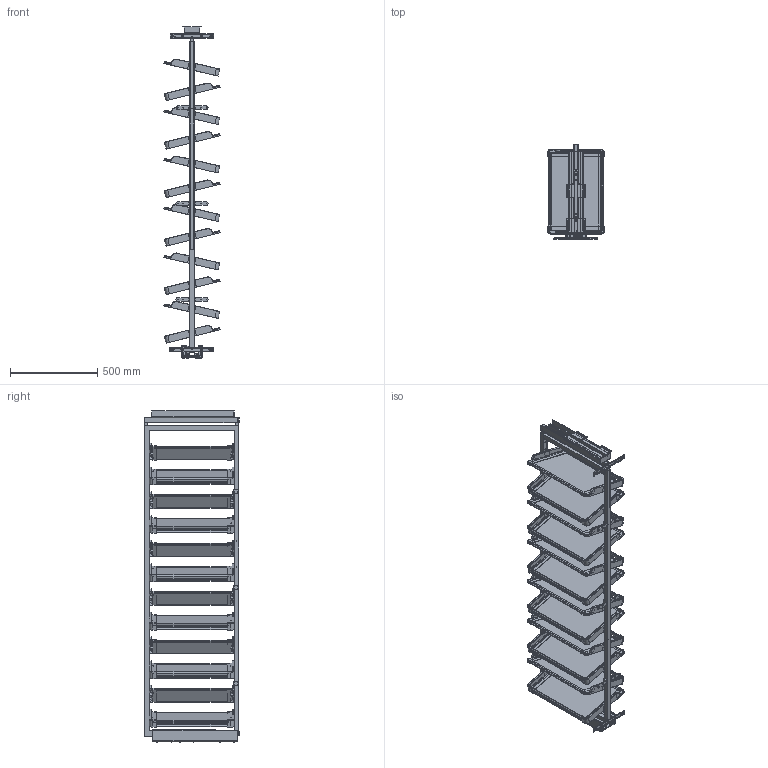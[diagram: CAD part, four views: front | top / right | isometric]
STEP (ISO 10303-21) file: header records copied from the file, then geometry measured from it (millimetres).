
FILE_DESCRIPTION(/* description */ ('STEP AP242 Edition 2','CAx-IF Rec.Pracs.---Representation and Presentation of Product Manufacturing Information (PMI)---4.0---2014-10-13','CAx-IF Rec.Pracs.---3D Tessellated Geometry---0.4---2014-09-14','2;1','CAx-IF Rec.Pracs.---User Defined Attributes---1.5---2016-08-15'),/* implementation_level */ '2;1');
FILE_NAME(/* name */ '6a0465d1cfd309d401985b8f',/* time_stamp */ '2026-05-13T11:51:47Z',/* author */ (''),/* organization */ (''),/* preprocessor_version */ 'ST-DEVELOPER v20',/* originating_system */ 'ONSHAPE BY PTC INC, 1.214',/* authorisation */ ' ');
FILE_SCHEMA (('AP242_MANAGED_MODEL_BASED_3D_ENGINEERING_MIM_LF { 1 0 10303 442 3 1 4 }'));
Length unit declared in the file: millimetre
Products named in the file (49): 500 assembly 12; kolko; Part 8; obudowa posrednia; Part 2; plastik; Part 1; obudowa wewnetrzna; plasticzek; Part 5; rama; Part 3; mechanizm wewnetrzny; Part 4; obudowa dolna; gorna rama; mechanizm; PZ Raised countersunk head screw M2x0.40 x 4; polka 500 assembly <10>; polka 500 assembly <3>; Part 7; polka 500 assembly <8>; polka 500 assembly <1>; kolko1; Part 9; polka 500 assembly <2>; polka 500 assembly <12>; polka 500 assembly <7>; polka 500 assembly <4>; PH Countersunk flat head screw M4x0.7 x 6; polka 500 assembly <5>; polka 500 assembly <9>; polka 500 assembly <11>; Part 6; polka 500 assembly <6>
Assembly tree (156 placements, depth 3):
  500 assembly 12
    kolko  x4
    Part 8
    obudowa posrednia
    Part 2  x2
    plastik
    Part 1  x2
    obudowa wewnetrzna
    plasticzek  x2
    Part 5  x3
    rama
    Part 3  x5
    mechanizm wewnetrzny
    Part 2
    Part 4  x2
    obudowa dolna
    kolko  x4
    gorna rama
    mechanizm
    PZ Raised countersunk head screw M2x0.40 x 4  x4
    Part 1
    polka 500 assembly <10>
      Part 1
      Part 1  x2
      Part 4
      Part 1
      Part 3
      Part 2
      Part 2
    Part 3
    polka 500 assembly <3>
      Part 2
      Part 2
      Part 4
      Part 1
      Part 3
      Part 1
      Part 1  x2
    Part 7
    Part 4
    polka 500 assembly <8>
      Part 2
      Part 1  x2
      Part 2
      Part 1
      Part 4
      Part 3
      Part 1
    polka 500 assembly <1>
      Part 1
      Part 2
      Part 2
      Part 3
      Part 4
      Part 1  x2
      Part 1
    kolko1
    Part 9
    polka 500 assembly <2>
      Part 2
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Bounding box: 323.66 x 544 x 1903.7 mm (x, y, z)
Volume: 16574208.6 mm3; surface area: 9019492.5 mm2
Topology: 144 solids, 144 shells, 4024 faces, 9975 edges, 6472 vertices
Faces by surface type: plane 2608, cylinder 1158, torus 165, cone 63, bspline 26, sphere 4
Full cylindrical faces by diameter (mm): 2 x14, 2.5 x1, 3.7 x9, 3.8 x4, 4 x19, 4.35 x2, 4.4 x17, 5 x12, 6 x180, 7 x28, 7.9 x2, 8 x4, 8.4 x1, 9 x2, 9.9 x4, 10 x1, 11 x2, 12 x10, 12.5 x8, 13 x4, 14 x8, 16 x9, 20 x8, 21 x2, 28 x8, 29 x2
Entity records: 39879 total; most frequent: CARTESIAN_POINT 7075, DIRECTION 6642, ORIENTED_EDGE 5796, EDGE_CURVE 2898, AXIS2_PLACEMENT_3D 2357, VERTEX_POINT 2036, FACE_BOUND 2036, EDGE_LOOP 2034
